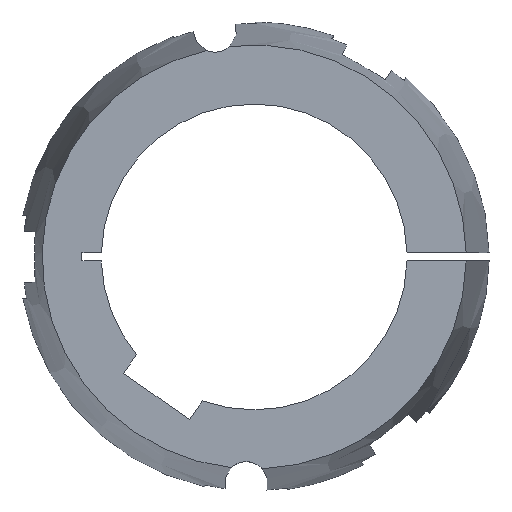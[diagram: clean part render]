
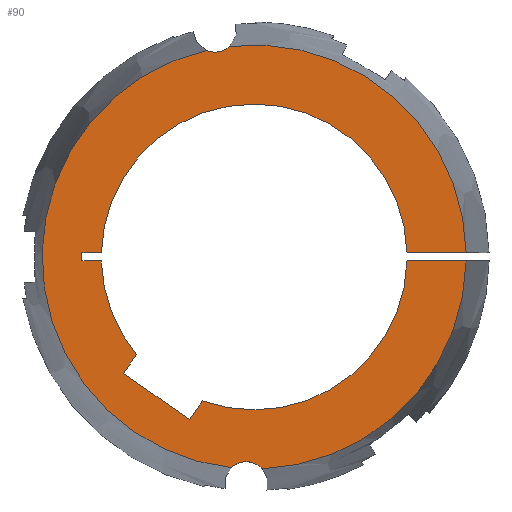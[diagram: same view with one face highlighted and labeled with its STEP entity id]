
A CAD part, left-side view. The second image highlights one B-rep face of the part: STEP entity #90.
In plain terms, the highlighted planar face has unit normal (-1, 0, 0).
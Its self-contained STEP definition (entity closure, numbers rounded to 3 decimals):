
#90 = ADVANCED_FACE( '', ( #140 ), #141, .F. );
#140 = FACE_OUTER_BOUND( '', #208, .T. );
#141 = PLANE( '', #209 );
#208 = EDGE_LOOP( '', ( #369, #370, #371, #372, #373, #374, #375, #376, #377, #378, #379, #380, #381, #382, #383, #384 ) );
#209 = AXIS2_PLACEMENT_3D( '', #385, #386, #387 );
#369 = ORIENTED_EDGE( '', *, *, #548, .F. );
#370 = ORIENTED_EDGE( '', *, *, #601, .F. );
#371 = ORIENTED_EDGE( '', *, *, #570, .T. );
#372 = ORIENTED_EDGE( '', *, *, #583, .T. );
#373 = ORIENTED_EDGE( '', *, *, #581, .T. );
#374 = ORIENTED_EDGE( '', *, *, #578, .T. );
#375 = ORIENTED_EDGE( '', *, *, #587, .T. );
#376 = ORIENTED_EDGE( '', *, *, #602, .T. );
#377 = ORIENTED_EDGE( '', *, *, #603, .T. );
#378 = ORIENTED_EDGE( '', *, *, #604, .T. );
#379 = ORIENTED_EDGE( '', *, *, #605, .T. );
#380 = ORIENTED_EDGE( '', *, *, #606, .T. );
#381 = ORIENTED_EDGE( '', *, *, #572, .T. );
#382 = ORIENTED_EDGE( '', *, *, #607, .F. );
#383 = ORIENTED_EDGE( '', *, *, #551, .F. );
#384 = ORIENTED_EDGE( '', *, *, #608, .F. );
#385 = CARTESIAN_POINT( '', ( -102., 0., 0. ) );
#386 = DIRECTION( '', ( 1., 0., 0. ) );
#387 = DIRECTION( '', ( 0., 1., 0. ) );
#548 = EDGE_CURVE( '', #649, #651, #652, .F. );
#551 = EDGE_CURVE( '', #655, #657, #658, .F. );
#570 = EDGE_CURVE( '', #693, #691, #694, .T. );
#572 = EDGE_CURVE( '', #696, #697, #698, .T. );
#578 = EDGE_CURVE( '', #709, #707, #710, .T. );
#581 = EDGE_CURVE( '', #714, #709, #715, .T. );
#583 = EDGE_CURVE( '', #691, #714, #717, .T. );
#587 = EDGE_CURVE( '', #707, #721, #723, .T. );
#601 = EDGE_CURVE( '', #693, #649, #745, .T. );
#602 = EDGE_CURVE( '', #721, #746, #747, .T. );
#603 = EDGE_CURVE( '', #746, #748, #749, .T. );
#604 = EDGE_CURVE( '', #748, #750, #751, .T. );
#605 = EDGE_CURVE( '', #750, #752, #753, .T. );
#606 = EDGE_CURVE( '', #752, #696, #754, .T. );
#607 = EDGE_CURVE( '', #657, #697, #755, .T. );
#608 = EDGE_CURVE( '', #651, #655, #756, .T. );
#649 = VERTEX_POINT( '', #815 );
#651 = VERTEX_POINT( '', #828 );
#652 = CIRCLE( '', #829, 6.75 );
#655 = VERTEX_POINT( '', #843 );
#657 = VERTEX_POINT( '', #856 );
#658 = CIRCLE( '', #857, 6.75 );
#691 = VERTEX_POINT( '', #924 );
#693 = VERTEX_POINT( '', #927 );
#694 = LINE( '', #928, #929 );
#696 = VERTEX_POINT( '', #937 );
#697 = VERTEX_POINT( '', #938 );
#698 = LINE( '', #939, #940 );
#707 = VERTEX_POINT( '', #958 );
#709 = VERTEX_POINT( '', #961 );
#710 = LINE( '', #962, #963 );
#714 = VERTEX_POINT( '', #969 );
#715 = LINE( '', #970, #971 );
#717 = CIRCLE( '', #974, 47.5 );
#721 = VERTEX_POINT( '', #979 );
#723 = LINE( '', #982, #983 );
#745 = CIRCLE( '', #1008, 65.867 );
#746 = VERTEX_POINT( '', #1009 );
#747 = CIRCLE( '', #1010, 47.5 );
#748 = VERTEX_POINT( '', #1011 );
#749 = LINE( '', #1012, #1013 );
#750 = VERTEX_POINT( '', #1014 );
#751 = LINE( '', #1015, #1016 );
#752 = VERTEX_POINT( '', #1017 );
#753 = LINE( '', #1018, #1019 );
#754 = CIRCLE( '', #1020, 47.5 );
#755 = CIRCLE( '', #1021, 65.867 );
#756 = CIRCLE( '', #1022, 65.867 );
#815 = CARTESIAN_POINT( '', ( -102., -2.538, -65.819 ) );
#828 = CARTESIAN_POINT( '', ( -102., 7.121, -65.481 ) );
#829 = AXIS2_PLACEMENT_3D( '', #1188, #1189, #1190 );
#843 = CARTESIAN_POINT( '', ( -102., 14.891, 64.162 ) );
#856 = CARTESIAN_POINT( '', ( -102., 7.611, 65.426 ) );
#857 = AXIS2_PLACEMENT_3D( '', #1191, #1192, #1193 );
#924 = CARTESIAN_POINT( '', ( -102., -47.484, -1.25 ) );
#927 = CARTESIAN_POINT( '', ( -102., -65.856, -1.25 ) );
#928 = CARTESIAN_POINT( '', ( -102., -73., -1.25 ) );
#929 = VECTOR( '', #1223, 1000. );
#937 = CARTESIAN_POINT( '', ( -102., -47.484, 1.25 ) );
#938 = CARTESIAN_POINT( '', ( -102., -65.856, 1.25 ) );
#939 = CARTESIAN_POINT( '', ( -102., 0., 1.25 ) );
#940 = VECTOR( '', #1224, 1000. );
#958 = CARTESIAN_POINT( '', ( -102., 40.582, -36.163 ) );
#961 = CARTESIAN_POINT( '', ( -102., 20.103, -50.503 ) );
#962 = CARTESIAN_POINT( '', ( -102., 20.103, -50.503 ) );
#963 = VECTOR( '', #1229, 1000. );
#969 = CARTESIAN_POINT( '', ( -102., 16.045, -44.708 ) );
#970 = CARTESIAN_POINT( '', ( -102., 16.045, -44.708 ) );
#971 = VECTOR( '', #1232, 1000. );
#974 = AXIS2_PLACEMENT_3D( '', #1234, #1235, #1236 );
#979 = CARTESIAN_POINT( '', ( -102., 36.524, -30.369 ) );
#982 = CARTESIAN_POINT( '', ( -102., 40.582, -36.163 ) );
#983 = VECTOR( '', #1242, 1000. );
#1008 = AXIS2_PLACEMENT_3D( '', #1276, #1277, #1278 );
#1009 = CARTESIAN_POINT( '', ( -102., 47.484, -1.25 ) );
#1010 = AXIS2_PLACEMENT_3D( '', #1279, #1280, #1281 );
#1011 = CARTESIAN_POINT( '', ( -102., 53.5, -1.25 ) );
#1012 = CARTESIAN_POINT( '', ( -102., 0., -1.25 ) );
#1013 = VECTOR( '', #1282, 1000. );
#1014 = CARTESIAN_POINT( '', ( -102., 53.5, 1.25 ) );
#1015 = CARTESIAN_POINT( '', ( -102., 53.5, -1.25 ) );
#1016 = VECTOR( '', #1283, 1000. );
#1017 = CARTESIAN_POINT( '', ( -102., 47.484, 1.25 ) );
#1018 = CARTESIAN_POINT( '', ( -102., 53.5, 1.25 ) );
#1019 = VECTOR( '', #1284, 1000. );
#1020 = AXIS2_PLACEMENT_3D( '', #1285, #1286, #1287 );
#1021 = AXIS2_PLACEMENT_3D( '', #1288, #1289, #1290 );
#1022 = AXIS2_PLACEMENT_3D( '', #1291, #1292, #1293 );
#1188 = CARTESIAN_POINT( '', ( -102., 2.456, -70.36 ) );
#1189 = DIRECTION( '', ( 1., 0., 0. ) );
#1190 = DIRECTION( '', ( 0., 1., 0. ) );
#1191 = CARTESIAN_POINT( '', ( -102., 12.218, 70.36 ) );
#1192 = DIRECTION( '', ( 1., 0., 0. ) );
#1193 = DIRECTION( '', ( 0., 1., 0. ) );
#1223 = DIRECTION( '', ( 0., 1., 0. ) );
#1224 = DIRECTION( '', ( 0., -1., 0. ) );
#1229 = DIRECTION( '', ( 0., 0.819, 0.574 ) );
#1232 = DIRECTION( '', ( 0., 0.574, -0.819 ) );
#1234 = CARTESIAN_POINT( '', ( -102., 0., 0. ) );
#1235 = DIRECTION( '', ( 1., 0., 0. ) );
#1236 = DIRECTION( '', ( 0., 0., -1. ) );
#1242 = DIRECTION( '', ( 0., -0.574, 0.819 ) );
#1276 = CARTESIAN_POINT( '', ( -102., 0., 0. ) );
#1277 = DIRECTION( '', ( 1., 0., 0. ) );
#1278 = DIRECTION( '', ( 0., 1., 0. ) );
#1279 = CARTESIAN_POINT( '', ( -102., 0., 0. ) );
#1280 = DIRECTION( '', ( 1., 0., 0. ) );
#1281 = DIRECTION( '', ( 0., 0., -1. ) );
#1282 = DIRECTION( '', ( 0., 1., 0. ) );
#1283 = DIRECTION( '', ( 0., 0., 1. ) );
#1284 = DIRECTION( '', ( 0., -1., 0. ) );
#1285 = CARTESIAN_POINT( '', ( -102., 0., 0. ) );
#1286 = DIRECTION( '', ( 1., 0., 0. ) );
#1287 = DIRECTION( '', ( 0., 0., -1. ) );
#1288 = CARTESIAN_POINT( '', ( -102., 0., 0. ) );
#1289 = DIRECTION( '', ( 1., 0., 0. ) );
#1290 = DIRECTION( '', ( 0., 1., 0. ) );
#1291 = CARTESIAN_POINT( '', ( -102., 0., 0. ) );
#1292 = DIRECTION( '', ( 1., 0., 0. ) );
#1293 = DIRECTION( '', ( 0., 1., 0. ) );
